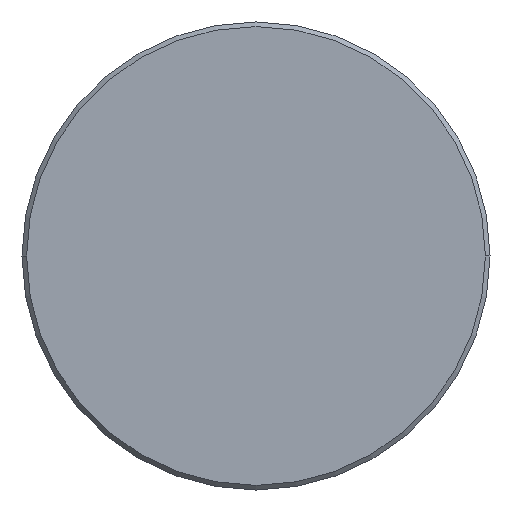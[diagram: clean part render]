
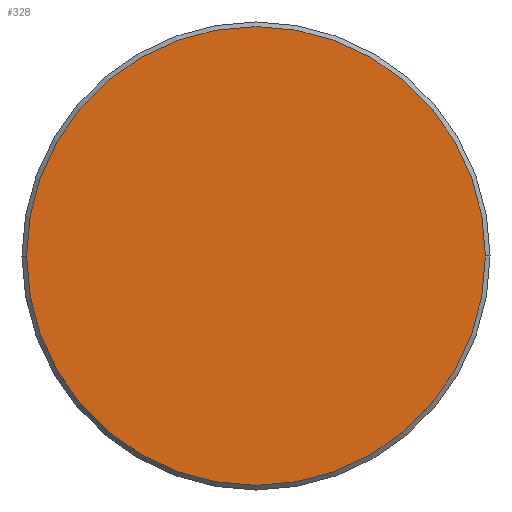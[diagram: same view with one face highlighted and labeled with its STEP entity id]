
A CAD part, left-side view. The second image highlights one B-rep face of the part: STEP entity #328.
In plain terms, the highlighted planar face has unit normal (-1, 0, 0).
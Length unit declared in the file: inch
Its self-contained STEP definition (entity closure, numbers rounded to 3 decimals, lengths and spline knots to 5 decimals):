
#13 = FACE_OUTER_BOUND ( 'NONE', #63, .T. ) ;
#28 = CIRCLE ( 'NONE', #250, 0.19912 ) ;
#43 = DIRECTION ( 'NONE',  ( 0., -1., 0. ) ) ;
#49 = ORIENTED_EDGE ( 'NONE', *, *, #144, .T. ) ;
#63 = EDGE_LOOP ( 'NONE', ( #334, #49 ) ) ;
#73 = VERTEX_POINT ( 'NONE', #297 ) ;
#93 = VERTEX_POINT ( 'NONE', #270 ) ;
#101 = CIRCLE ( 'NONE', #245, 0.19912 ) ;
#144 = EDGE_CURVE ( 'NONE', #73, #93, #28, .T. ) ;
#149 = EDGE_CURVE ( 'NONE', #93, #73, #101, .T. ) ;
#182 = CARTESIAN_POINT ( 'NONE',  ( 0., 0., 0. ) ) ;
#221 = CARTESIAN_POINT ( 'NONE',  ( 0., 0., 0. ) ) ;
#231 = DIRECTION ( 'NONE',  ( 0., -1., 0. ) ) ;
#244 = DIRECTION ( 'NONE',  ( -1., 0., 0. ) ) ;
#245 = AXIS2_PLACEMENT_3D ( 'NONE', #333, #244, #281 ) ;
#250 = AXIS2_PLACEMENT_3D ( 'NONE', #182, #298, #43 ) ;
#270 = CARTESIAN_POINT ( 'NONE',  ( 0., 0.19912, 0. ) ) ;
#281 = DIRECTION ( 'NONE',  ( 0., -1., 0. ) ) ;
#283 = PLANE ( 'NONE',  #308 ) ;
#289 = DIRECTION ( 'NONE',  ( -1., 0., 0. ) ) ;
#297 = CARTESIAN_POINT ( 'NONE',  ( 0., -0.19912, 0. ) ) ;
#298 = DIRECTION ( 'NONE',  ( -1., 0., 0. ) ) ;
#308 = AXIS2_PLACEMENT_3D ( 'NONE', #221, #289, #231 ) ;
#328 = ADVANCED_FACE ( 'NONE', ( #13 ), #283, .T. ) ;
#333 = CARTESIAN_POINT ( 'NONE',  ( 0., 0., 0. ) ) ;
#334 = ORIENTED_EDGE ( 'NONE', *, *, #149, .T. ) ;
